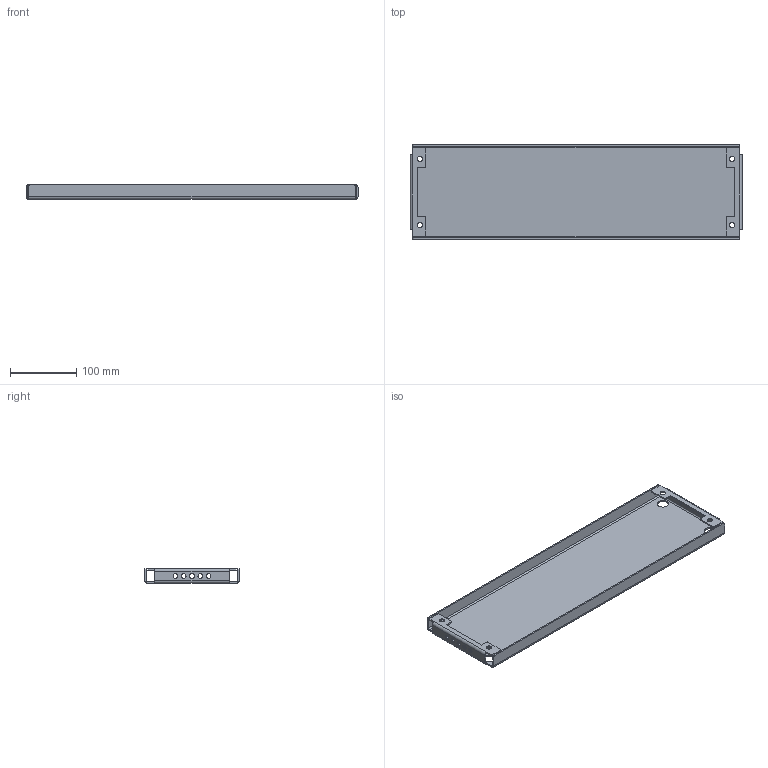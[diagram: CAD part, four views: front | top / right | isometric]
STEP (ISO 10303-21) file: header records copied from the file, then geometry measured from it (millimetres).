
FILE_DESCRIPTION(('STEP AP203'), '1');
FILE_NAME('3550 Ñåêöèîííàÿ ìîíòàæíàÿ ïàíåëü', '', ('UNSPECIFIED'), ('UNSPECIFIED'), 'C3D Converter', 'C3D Toolkit', '');
FILE_SCHEMA(('CONFIG_CONTROL_DESIGN'));
Length unit declared in the file: millimetre
Products named in the file (1): 3550.15.60
Bounding box: 500 x 142 x 22 mm (x, y, z)
Volume: 190890.3 mm3; surface area: 195235.5 mm2
Topology: 1 solids, 1 shells, 104 faces, 258 edges, 156 vertices
Faces by surface type: plane 58, cylinder 46
Full cylindrical faces by diameter (mm): 7 x10, 8 x4, 17 x4
Entity records: 3072 total; most frequent: DIRECTION 542, CARTESIAN_POINT 501, ORIENTED_EDGE 480, EDGE_CURVE 240, AXIS2_PLACEMENT_3D 197, EDGE_LOOP 158, VERTEX_POINT 156, LINE 148
